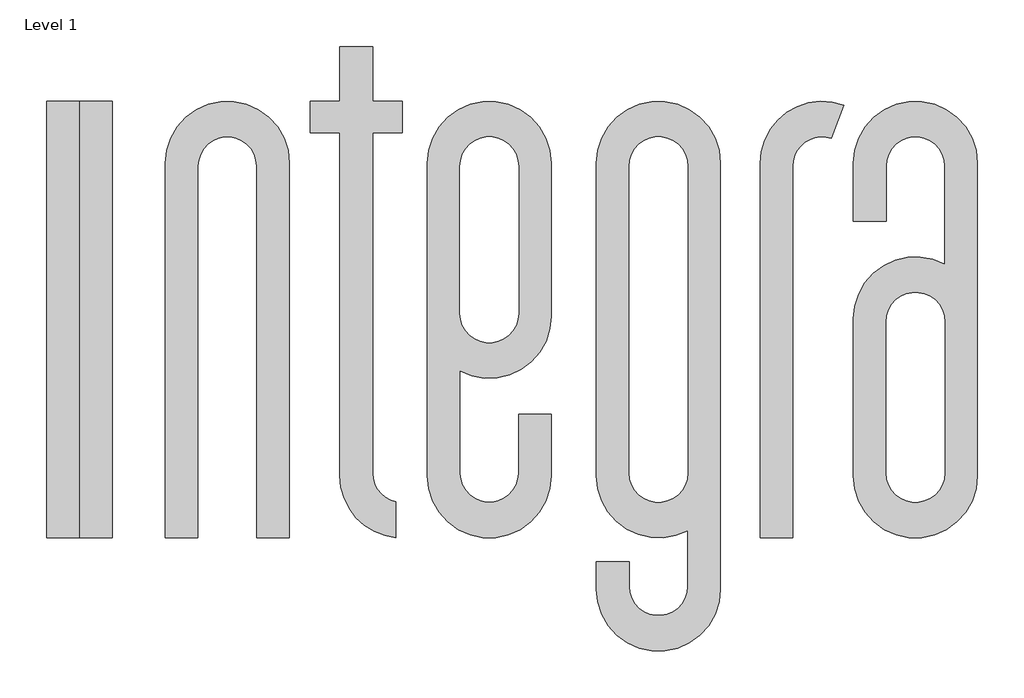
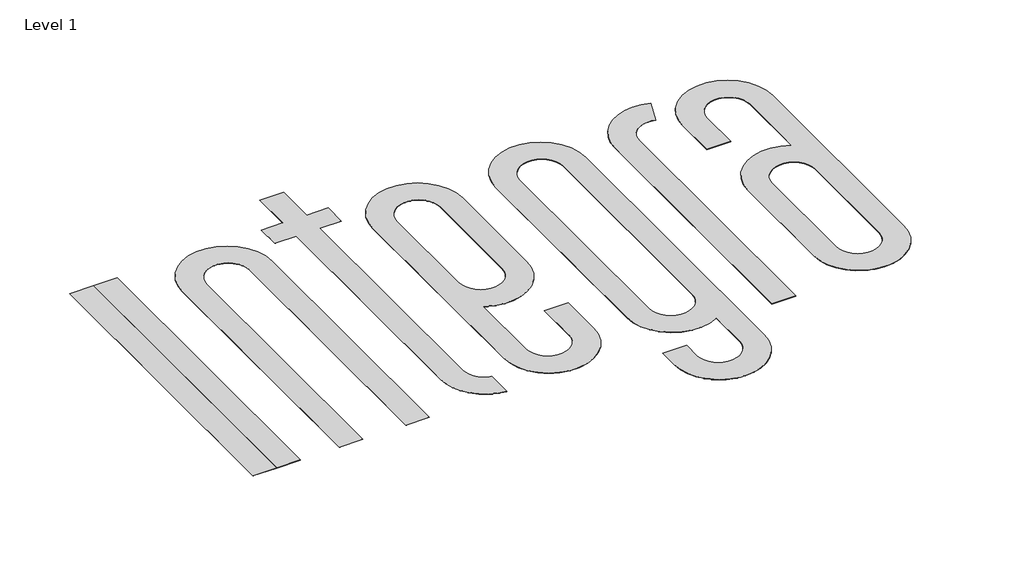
# One storey, incomplete: 1 proxy.
"""IFC4 building model written with IfcOpenShell, lengths in millimetres."""

from ifc_helpers import new_model, si_unit, origin, place, context, project, spatial, transform, mapped, element, save
from components import generic_models_e4622b55

model = new_model("IFC4")

# Units and contexts
model_context = context("Model", 3, world=origin())
ifc_project = project(units=[si_unit("LENGTHUNIT", "METRE", prefix="MILLI")], contexts=[model_context])

# Site, building, storey
site = spatial("IfcSite", under=ifc_project)
building = spatial("IfcBuilding", under=site)
storey = spatial("IfcBuildingStorey", under=building, Name="Level 1", Elevation=0.0)

# Proxy
placement = place(None, origin())
generic_models_shape = generic_models_e4622b55(model_context)
element("IfcBuildingElementProxy", 1, Name="Integra Logo : Integra Logo", ObjectType="Integra Logo : Integra Logo", at=placement, inside=storey, context=model_context, shape_type="MappedRepresentation", body=[
    mapped(generic_models_shape, transform((8107.90906, 7192.5979898, 0.0), x_axis=(1.0, 0.0, 0.0), y_axis=(0.0, 1.0, 0.0), z_axis=(0.0, 0.0, 1.0))),
])

save(model, "model.ifc")
